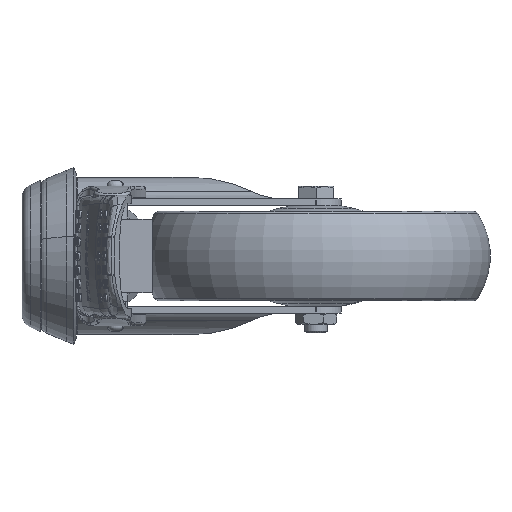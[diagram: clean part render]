
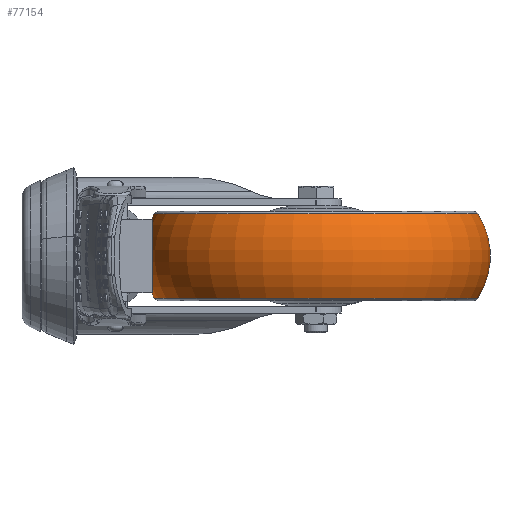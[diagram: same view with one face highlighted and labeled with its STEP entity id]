
A CAD part, left-side view. The second image highlights one B-rep face of the part: STEP entity #77154.
In plain terms, the highlighted toroidal (fillet/blend) face has major radius 34.5 mm and minor radius 28 mm.
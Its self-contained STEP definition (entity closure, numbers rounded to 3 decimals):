
#22393 = VERTEX_POINT ( 'NONE', #56887 ) ;
#56887 = CARTESIAN_POINT ( 'NONE',  ( 82.102, -172.835, 125.163 ) ) ;
#63210 = CARTESIAN_POINT ( 'NONE',  ( 77.833, -56.725, 95.009 ) ) ;
#63388 = CARTESIAN_POINT ( 'NONE',  ( 82.102, -172.835, 95.009 ) ) ;
#65229 = DIRECTION ( 'NONE',  ( 0.037, -0.999, 0. ) ) ;
#65230 = DIRECTION ( 'NONE',  ( 0., 0., -1. ) ) ;
#65245 = CARTESIAN_POINT ( 'NONE',  ( 79.967, -114.78, 95.009 ) ) ;
#65246 = AXIS2_PLACEMENT_3D ( 'NONE', #65245, #65230, #65229 ) ;
#65251 = CIRCLE ( 'NONE', #65246, 58.094 ) ;
#65276 = CARTESIAN_POINT ( 'NONE',  ( 79.967, -114.78, 125.163 ) ) ;
#65309 = CARTESIAN_POINT ( 'NONE',  ( 78.699, -80.303, 110.086 ) ) ;
#65317 = CIRCLE ( 'NONE', #65420, 28. ) ;
#65340 = CIRCLE ( 'NONE', #65426, 58.094 ) ;
#65382 = CARTESIAN_POINT ( 'NONE',  ( 77.833, -56.725, 125.163 ) ) ;
#65393 = AXIS2_PLACEMENT_3D ( 'NONE', #65395, #65402, #65414 ) ;
#65394 = FACE_OUTER_BOUND ( 'NONE', #78259, .T. ) ;
#65395 = CARTESIAN_POINT ( 'NONE',  ( 79.967, -114.78, 110.086 ) ) ;
#65402 = DIRECTION ( 'NONE',  ( 0., 0., -1. ) ) ;
#65407 = TOROIDAL_SURFACE ( 'NONE', #65393, 34.5, 28. ) ;
#65408 = DIRECTION ( 'NONE',  ( 0.037, -0.999, 0. ) ) ;
#65410 = DIRECTION ( 'NONE',  ( -0.999, -0.037, 0. ) ) ;
#65414 = DIRECTION ( 'NONE',  ( 0.037, -0.999, 0. ) ) ;
#65420 = AXIS2_PLACEMENT_3D ( 'NONE', #65309, #65410, #65408 ) ;
#65423 = DIRECTION ( 'NONE',  ( 0.037, -0.999, 0. ) ) ;
#65424 = DIRECTION ( 'NONE',  ( 0., 0., -1. ) ) ;
#65426 = AXIS2_PLACEMENT_3D ( 'NONE', #65276, #65424, #65423 ) ;
#65647 = DIRECTION ( 'NONE',  ( -0.037, 0.999, 0. ) ) ;
#65648 = DIRECTION ( 'NONE',  ( 0.999, 0.037, 0. ) ) ;
#65657 = CARTESIAN_POINT ( 'NONE',  ( 81.235, -149.257, 110.086 ) ) ;
#65667 = CIRCLE ( 'NONE', #65670, 28. ) ;
#65670 = AXIS2_PLACEMENT_3D ( 'NONE', #65657, #65648, #65647 ) ;
#73708 = VERTEX_POINT ( 'NONE', #63210 ) ;
#73739 = VERTEX_POINT ( 'NONE', #63388 ) ;
#76879 = EDGE_CURVE ( 'NONE', #73739, #73708, #65251, .T. ) ;
#77120 = EDGE_CURVE ( 'NONE', #22393, #77176, #65340, .T. ) ;
#77122 = EDGE_CURVE ( 'NONE', #77176, #73708, #65317, .T. ) ;
#77126 = ORIENTED_EDGE ( 'NONE', *, *, #77120, .T. ) ;
#77154 = ADVANCED_FACE ( 'NONE', ( #65394 ), #65407, .T. ) ;
#77176 = VERTEX_POINT ( 'NONE', #65382 ) ;
#77240 = ORIENTED_EDGE ( 'NONE', *, *, #77122, .T. ) ;
#78131 = EDGE_CURVE ( 'NONE', #22393, #73739, #65667, .T. ) ;
#78132 = ORIENTED_EDGE ( 'NONE', *, *, #78131, .F. ) ;
#78151 = ORIENTED_EDGE ( 'NONE', *, *, #76879, .F. ) ;
#78259 = EDGE_LOOP ( 'NONE', ( #77126, #77240, #78151, #78132 ) ) ;
